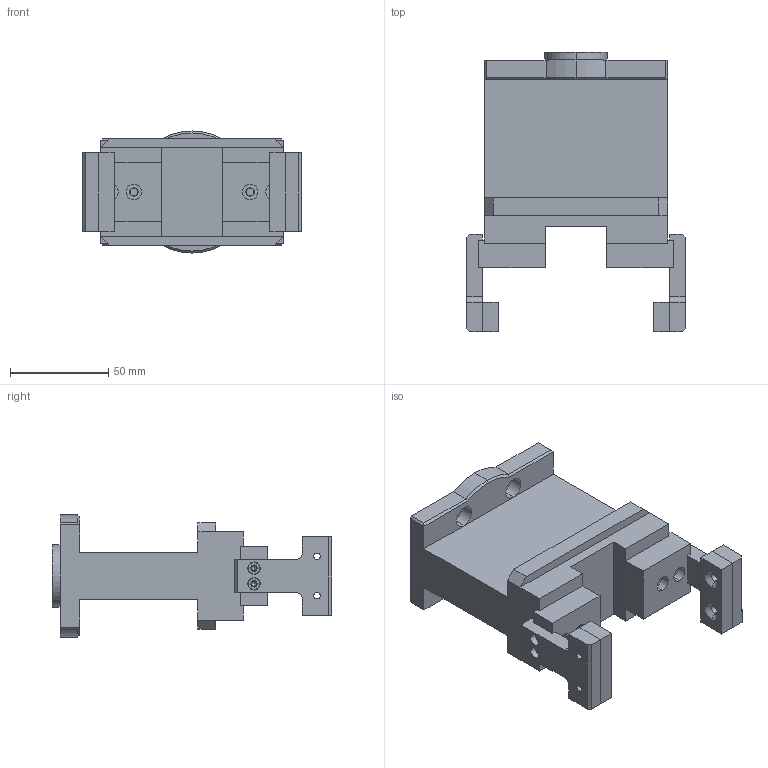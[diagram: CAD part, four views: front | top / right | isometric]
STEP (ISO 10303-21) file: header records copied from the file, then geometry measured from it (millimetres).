
FILE_DESCRIPTION (( 'STEP AP214' ), '1' );
FILE_NAME ('机器人工具手---夹成品.STEP', '2023-03-01T05:34:59', ( 'Windows User' ), ( 'P R C' ), 'SwSTEP 2.0', 'SolidWorks 2020', '' );
FILE_SCHEMA (( 'AUTOMOTIVE_DESIGN' ));
Length unit declared in the file: millimetre
Products named in the file (7): __________Toyo______-____2.STEP; Toyo____.STEP; ____.STEP; 机器人工具手---夹成品.STEP; __________Toyo______-____3.STEP; __________Toyo______-____1.STEP; 机器人工具手---夹成品
Assembly tree (9 placements, depth 4):
  机器人工具手---夹成品
    机器人工具手---夹成品.STEP
      Toyo____.STEP
        ____.STEP
      __________Toyo______-____1.STEP  x2
      __________Toyo______-____2.STEP  x2
      __________Toyo______-____3.STEP  x2
Bounding box: 111 x 142 x 62 mm (x, y, z)
Volume: 327191.3 mm3; surface area: 62469 mm2
Topology: 7 solids, 7 shells, 233 faces, 569 edges, 363 vertices
Faces by surface type: plane 117, cylinder 89, cone 27
Entity records: 4970 total; most frequent: DIRECTION 856, CARTESIAN_POINT 819, ORIENTED_EDGE 770, EDGE_CURVE 385, AXIS2_PLACEMENT_3D 302, LINE 252, VECTOR 252, VERTEX_POINT 249
